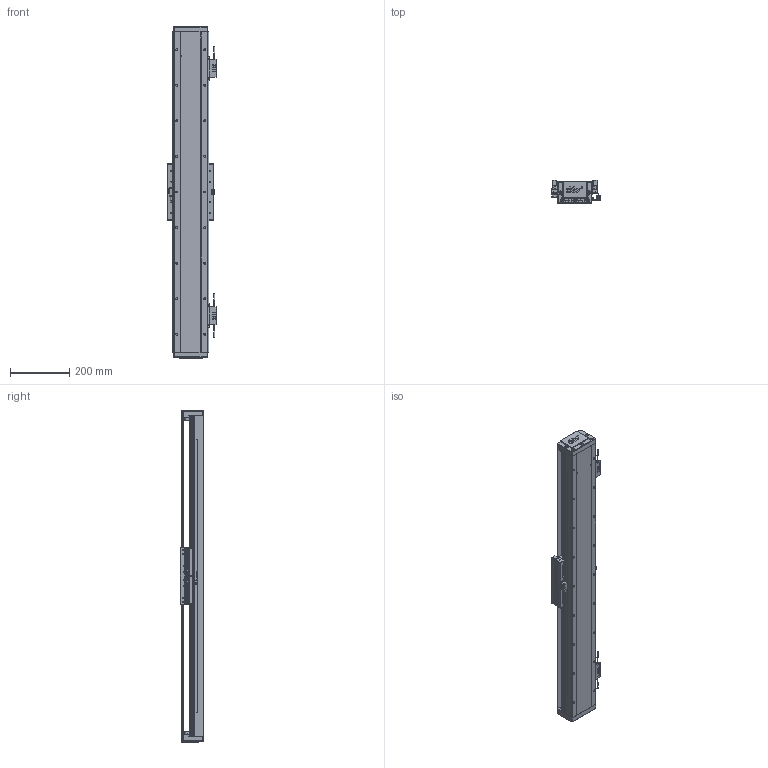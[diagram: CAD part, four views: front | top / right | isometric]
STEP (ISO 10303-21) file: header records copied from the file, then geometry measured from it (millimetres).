
FILE_DESCRIPTION (( 'STEP AP203' ), '1' );
FILE_NAME ('DA-B115-B2-T840-C010-0.2-HG-29574.STEP', '2024-11-14T09:46:50', ( '微软用户' ), ( '微软中国' ), 'SwSTEP 2.0', 'SolidWorks 2019', '' );
FILE_SCHEMA (( 'CONFIG_CONTROL_DESIGN' ));
Length unit declared in the file: millimetre
Products named in the file (26): 复件 DA95-DB-00  挡板^BU115-M  滚珠滑台; 17414-0001-001-00 嫖萇覜茼え; 葩璃 DA95-B2-DP-B-00 菜えB^BU115-M  幗紩賑怢; 复件 纯铜油杯 6x6mm^BU115-M  滚珠滑台; 葩璃 DA95-B2-DP-A-00 菜えA^BU115-M  幗紩賑怢; 葩璃 DA95-GT-T-00 菁釱詩寢_T600; 复件 DA95-B2-GT-00 滑块钢轨^66245-BU115-M-00  一体化滑动台板; 葩璃 BKM01C-W075-TRL^DA-B115-B2-T840-C010-0.2-HG-29574; 23519-0000-002-00 菁釱_L1080; BU115 XD-U-02L ｴﾅﾕ､ｳﾟ^DA-B115-B2-T840-C010-0.2-HG-29574_BU115; 66245-BU115-HT-M-01 賑雄怢啣; 葩璃 DA95-HXJ-00 遣喳砎蝶^DA-B115-B2-T840-C010-0.2-HG-29574; 复件 DA95-B2-YB-A-00 压板A^BU115-M  滚珠滑台; 葩璃 DMA-010-0.2 黍杅芛^DA-B115-B2-T840-C010-0.2-HG-29574; 复件 DA95-B2-DK-00 挡块^BU115-M  滚珠滑台; BU115-M  幗紩賑怢; 葩璃 BKM02-W075-C1C2-TP-DA-0.2 ^DA-B115-B2-T840-C010-0.2-HG-29574; 复件 DA95-MFP-01 密封片^BU115-M  滚珠滑台; DA-B115-B2-T840-C010-0.2-HG-29574; PM-Y65嫖萇羲壽郪璃_00; 葩璃 DA115-DG-H-01傷裔; 葩璃 DA115-T-002-00 裔啣^DA-B115-B2-T840-C010-0.2-HG-29574_DA115; 66245-BU115-M-00  珨极趙賑雄怢啣; 23519-0000-001-00 菁釱絳寢; 22746-0001-003-00 換覜ん嘐隅啣; 复件 DA95-B2-YB-B-00 压板B^BU115-M  滚珠滑台
Assembly tree (49 placements, depth 4):
  DA-B115-B2-T840-C010-0.2-HG-29574
    23519-0000-001-00 菁釱絳寢
      23519-0000-002-00 菁釱_L1080
      葩璃 DA95-GT-T-00 菁釱詩寢_T600  x2
    BU115 XD-U-02L ｴﾅﾕ､ｳﾟ^DA-B115-B2-T840-C010-0.2-HG-29574_BU115
    葩璃 BKM01C-W075-TRL^DA-B115-B2-T840-C010-0.2-HG-29574
    葩璃 DA115-T-002-00 裔啣^DA-B115-B2-T840-C010-0.2-HG-29574_DA115
    葩璃 DA95-HXJ-00 遣喳砎蝶^DA-B115-B2-T840-C010-0.2-HG-29574  x4
    葩璃 DMA-010-0.2 黍杅芛^DA-B115-B2-T840-C010-0.2-HG-29574
    葩璃 BKM02-W075-C1C2-TP-DA-0.2 ^DA-B115-B2-T840-C010-0.2-HG-29574
    BU115-M  幗紩賑怢
      葩璃 DA95-B2-DP-B-00 菜えB^BU115-M  幗紩賑怢  x2
      复件 DA95-B2-YB-B-00 压板B^BU115-M  滚珠滑台  x2
      复件 DA95-B2-DK-00 挡块^BU115-M  滚珠滑台  x3
      复件 DA95-DB-00  挡板^BU115-M  滚珠滑台  x4
      复件 DA95-MFP-01 密封片^BU115-M  滚珠滑台  x4
      复件 纯铜油杯 6x6mm^BU115-M  滚珠滑台  x4
      66245-BU115-M-00  珨极趙賑雄怢啣
        66245-BU115-HT-M-01 賑雄怢啣
        复件 DA95-B2-GT-00 滑块钢轨^66245-BU115-M-00  一体化滑动台板  x4
      复件 DA95-B2-YB-A-00 压板A^BU115-M  滚珠滑台
      葩璃 DA95-B2-DP-A-00 菜えA^BU115-M  幗紩賑怢
    葩璃 DA115-DG-H-01傷裔  x2
    17414-0001-001-00 嫖萇覜茼え
    22746-0001-003-00 換覜ん嘐隅啣  x2
    PM-Y65嫖萇羲壽郪璃_00  x3
Bounding box: 164.2 x 78 x 1120 mm (x, y, z)
Volume: 5019555.5 mm3; surface area: 1595493.1 mm2
Topology: 50 solids, 50 shells, 4004 faces, 10529 edges, 6570 vertices
Faces by surface type: plane 1586, cylinder 1526, bspline 448, cone 390, torus 42, sphere 12
Entity records: 95525 total; most frequent: CARTESIAN_POINT 29149, ORIENTED_EDGE 13378, DIRECTION 12759, EDGE_CURVE 6689, AXIS2_PLACEMENT_3D 4611, VERTEX_POINT 4250, LINE 3537, VECTOR 3537
